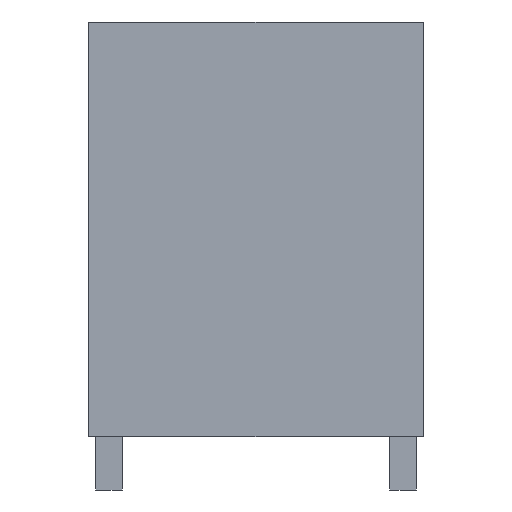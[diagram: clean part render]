
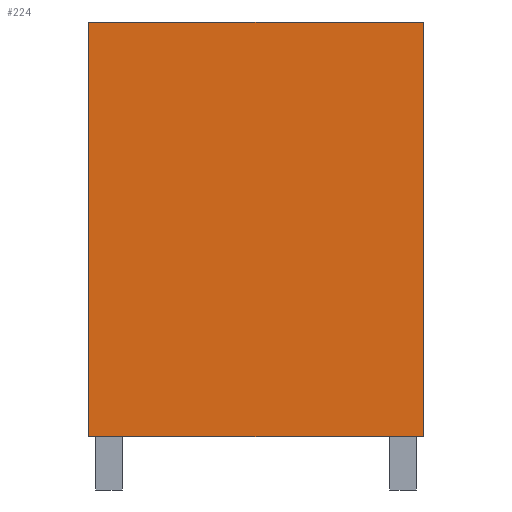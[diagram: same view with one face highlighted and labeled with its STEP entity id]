
A CAD part, left-side view. The second image highlights one B-rep face of the part: STEP entity #224.
In plain terms, the highlighted planar face has unit normal (-1, 0, 0).
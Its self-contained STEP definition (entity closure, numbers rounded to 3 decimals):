
#29 = FACE_OUTER_BOUND ( 'NONE', #820, .T. ) ;
#65 = CARTESIAN_POINT ( 'NONE',  ( 87., 12.5, 63.415 ) ) ;
#75 = DIRECTION ( 'NONE',  ( 0., 0., -1. ) ) ;
#106 = CARTESIAN_POINT ( 'NONE',  ( 87., 12.5, 0. ) ) ;
#125 = VECTOR ( 'NONE', #132, 1000. ) ;
#132 = DIRECTION ( 'NONE',  ( 0., 0., -1. ) ) ;
#137 = PLANE ( 'NONE',  #750 ) ;
#142 = CARTESIAN_POINT ( 'NONE',  ( 87., -12.5, 31. ) ) ;
#162 = VERTEX_POINT ( 'NONE', #142 ) ;
#224 = ADVANCED_FACE ( 'NONE', ( #29 ), #137, .F. ) ;
#255 = DIRECTION ( 'NONE',  ( 0., -1., 0. ) ) ;
#270 = VECTOR ( 'NONE', #255, 1000. ) ;
#297 = LINE ( 'NONE', #65, #125 ) ;
#298 = CARTESIAN_POINT ( 'NONE',  ( 87., 12.5, 31. ) ) ;
#299 = DIRECTION ( 'NONE',  ( 0., 0., -1. ) ) ;
#320 = ORIENTED_EDGE ( 'NONE', *, *, #751, .T. ) ;
#366 = CARTESIAN_POINT ( 'NONE',  ( 87., 12.5, 0. ) ) ;
#370 = VECTOR ( 'NONE', #628, 1000. ) ;
#384 = ORIENTED_EDGE ( 'NONE', *, *, #856, .F. ) ;
#402 = CARTESIAN_POINT ( 'NONE',  ( 87., 12.5, 63.415 ) ) ;
#423 = CARTESIAN_POINT ( 'NONE',  ( 87., -12.5, 0. ) ) ;
#436 = ORIENTED_EDGE ( 'NONE', *, *, #842, .T. ) ;
#566 = ORIENTED_EDGE ( 'NONE', *, *, #731, .F. ) ;
#596 = LINE ( 'NONE', #366, #370 ) ;
#627 = LINE ( 'NONE', #790, #270 ) ;
#628 = DIRECTION ( 'NONE',  ( 0., -1., 0. ) ) ;
#703 = VERTEX_POINT ( 'NONE', #106 ) ;
#711 = LINE ( 'NONE', #774, #773 ) ;
#731 = EDGE_CURVE ( 'NONE', #162, #789, #711, .T. ) ;
#750 = AXIS2_PLACEMENT_3D ( 'NONE', #402, #799, #75 ) ;
#751 = EDGE_CURVE ( 'NONE', #703, #789, #596, .T. ) ;
#758 = VERTEX_POINT ( 'NONE', #298 ) ;
#773 = VECTOR ( 'NONE', #299, 1000. ) ;
#774 = CARTESIAN_POINT ( 'NONE',  ( 87., -12.5, 63.415 ) ) ;
#789 = VERTEX_POINT ( 'NONE', #423 ) ;
#790 = CARTESIAN_POINT ( 'NONE',  ( 87., 12.5, 31. ) ) ;
#799 = DIRECTION ( 'NONE',  ( 1., 0., 0. ) ) ;
#820 = EDGE_LOOP ( 'NONE', ( #384, #436, #320, #566 ) ) ;
#842 = EDGE_CURVE ( 'NONE', #758, #703, #297, .T. ) ;
#856 = EDGE_CURVE ( 'NONE', #758, #162, #627, .T. ) ;
